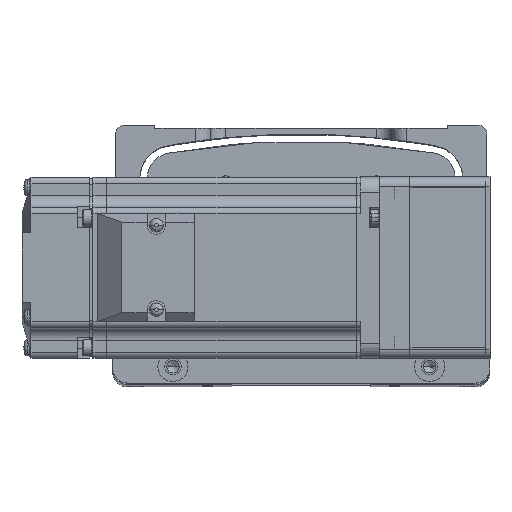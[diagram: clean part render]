
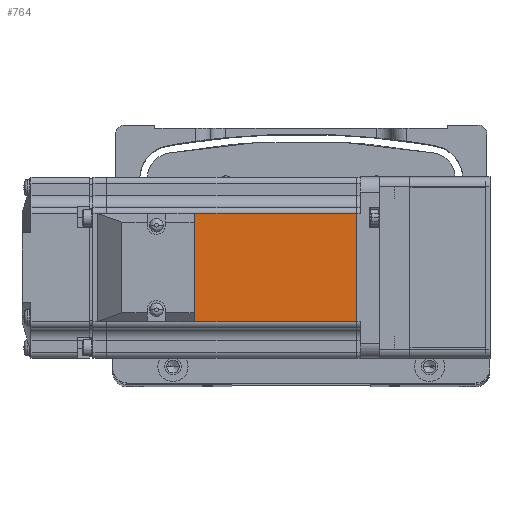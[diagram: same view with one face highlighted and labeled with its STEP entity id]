
A CAD part, top view. The second image highlights one B-rep face of the part: STEP entity #764.
In plain terms, the highlighted planar face has unit normal (0, 0, 1) as drawn and (0, 1, 0) by its records, which use the part's own axes.
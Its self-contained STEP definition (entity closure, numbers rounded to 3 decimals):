
#764 = ADVANCED_FACE ( 'NONE', ( #72135 ), #42819, .T. ) ;
#1208 = DIRECTION ( 'NONE',  ( -1., 0., 0. ) ) ;
#6739 = EDGE_LOOP ( 'NONE', ( #27488, #70549, #39476, #26054 ) ) ;
#9888 = CARTESIAN_POINT ( 'NONE',  ( -7.75, 30., 0. ) ) ;
#10602 = CARTESIAN_POINT ( 'NONE',  ( -6.5, 30., 18. ) ) ;
#11959 = LINE ( 'NONE', #44682, #43091 ) ;
#22282 = LINE ( 'NONE', #29901, #38795 ) ;
#24169 = CARTESIAN_POINT ( 'NONE',  ( -7.75, 30., -18. ) ) ;
#26054 = ORIENTED_EDGE ( 'NONE', *, *, #47082, .T. ) ;
#27488 = ORIENTED_EDGE ( 'NONE', *, *, #55922, .F. ) ;
#29688 = VECTOR ( 'NONE', #53336, 1000. ) ;
#29901 = CARTESIAN_POINT ( 'NONE',  ( -90.45, 30., 0. ) ) ;
#30558 = CARTESIAN_POINT ( 'NONE',  ( -6.5, 30., 25. ) ) ;
#35150 = EDGE_CURVE ( 'NONE', #50476, #40297, #11959, .T. ) ;
#36787 = DIRECTION ( 'NONE',  ( 0., 0., 1. ) ) ;
#38779 = AXIS2_PLACEMENT_3D ( 'NONE', #30558, #74059, #36787 ) ;
#38795 = VECTOR ( 'NONE', #67100, 1000. ) ;
#39476 = ORIENTED_EDGE ( 'NONE', *, *, #45323, .T. ) ;
#40297 = VERTEX_POINT ( 'NONE', #52313 ) ;
#42819 = PLANE ( 'NONE',  #38779 ) ;
#43091 = VECTOR ( 'NONE', #1208, 1000. ) ;
#44043 = CARTESIAN_POINT ( 'NONE',  ( -90.45, 30., 18. ) ) ;
#44682 = CARTESIAN_POINT ( 'NONE',  ( -6.5, 30., -18. ) ) ;
#45323 = EDGE_CURVE ( 'NONE', #40297, #45483, #22282, .T. ) ;
#45483 = VERTEX_POINT ( 'NONE', #44043 ) ;
#47082 = EDGE_CURVE ( 'NONE', #45483, #54211, #50003, .T. ) ;
#47842 = DIRECTION ( 'NONE',  ( 1., 0., 0. ) ) ;
#50003 = LINE ( 'NONE', #10602, #66536 ) ;
#50476 = VERTEX_POINT ( 'NONE', #24169 ) ;
#52313 = CARTESIAN_POINT ( 'NONE',  ( -90.45, 30., -18. ) ) ;
#53336 = DIRECTION ( 'NONE',  ( 0., 0., 1. ) ) ;
#54211 = VERTEX_POINT ( 'NONE', #68744 ) ;
#55922 = EDGE_CURVE ( 'NONE', #50476, #54211, #62791, .T. ) ;
#62791 = LINE ( 'NONE', #9888, #29688 ) ;
#66536 = VECTOR ( 'NONE', #47842, 1000. ) ;
#67100 = DIRECTION ( 'NONE',  ( 0., 0., 1. ) ) ;
#68744 = CARTESIAN_POINT ( 'NONE',  ( -7.75, 30., 18. ) ) ;
#70549 = ORIENTED_EDGE ( 'NONE', *, *, #35150, .T. ) ;
#72135 = FACE_OUTER_BOUND ( 'NONE', #6739, .T. ) ;
#74059 = DIRECTION ( 'NONE',  ( 0., 1., 0. ) ) ;
